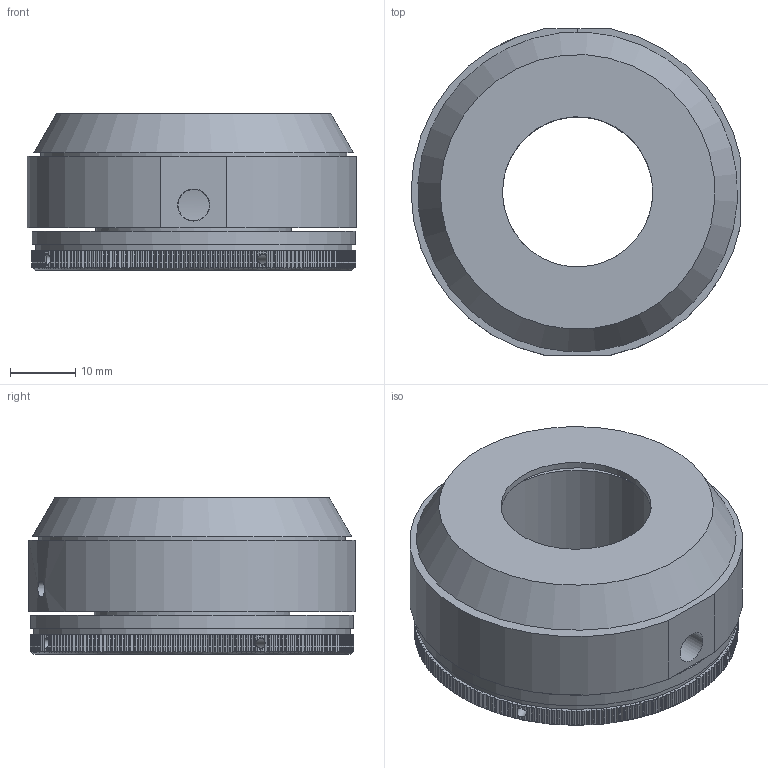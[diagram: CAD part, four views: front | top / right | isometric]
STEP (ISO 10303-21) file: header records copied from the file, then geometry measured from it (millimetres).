
FILE_DESCRIPTION(/* description */ (''),/* implementation_level */ '2;1');
FILE_NAME(/* name */ 'C:\Users\dsgn32\Desktop\5PH51-1 SB.stp',/* time_stamp */ '2015-02-03T11:39:18+02:00',/* author */ ('dsgn32'),/* organization */ (''),/* preprocessor_version */ 'ST-DEVELOPER v15.2',/* originating_system */ 'Autodesk Inventor 2014',/* authorisation */ '');
FILE_SCHEMA (('AUTOMOTIVE_DESIGN { 1 0 10303 214 3 1 1 }'));
Length unit declared in the file: millimetre
Products named in the file (2): Part92; Assembly14
Bounding box: 50.5 x 50 x 24 mm (x, y, z)
Volume: 27492.6 mm3; surface area: 16653.8 mm2
Topology: 1 solids, 2 shells, 697 faces, 2058 edges, 1372 vertices
Faces by surface type: plane 449, cylinder 243, cone 5
Full cylindrical faces by diameter (mm): 1.567 x4, 2.4 x1, 2.459 x1, 3.2 x1, 3.242 x1, 4.8 x1, 4.917 x1, 23 x2, 25.917 x2, 28 x1, 29.188 x1, 30 x2, 31 x1, 32 x1, 46.9 x1, 47 x2, 48.6 x1, 49.6 x1
Entity records: 22915 total; most frequent: CARTESIAN_POINT 5234, ORIENTED_EDGE 4020, DIRECTION 3482, EDGE_CURVE 2010, VERTEX_POINT 1354, AXIS2_PLACEMENT_3D 1201, LINE 1080, VECTOR 1080
